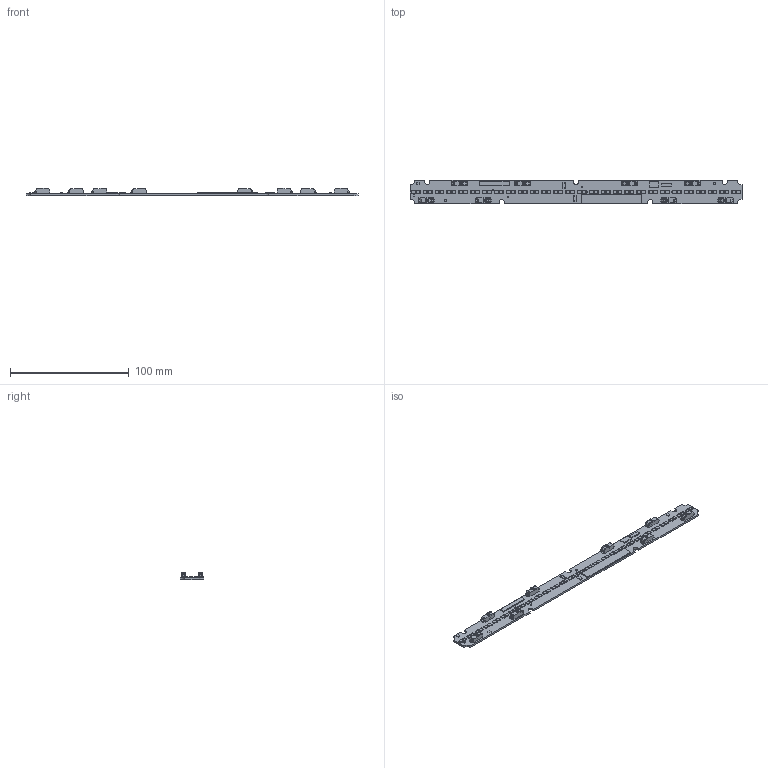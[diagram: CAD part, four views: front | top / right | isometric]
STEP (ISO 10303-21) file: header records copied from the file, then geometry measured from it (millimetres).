
FILE_DESCRIPTION((''),'2;1');
FILE_NAME('SC56DT110_06072021_10-35-22_ASM','2021-06-07T',('SYSTEM'),(''),'PRO/ENGINEER BY PARAMETRIC TECHNOLOGY CORPORATION, 2009360','PRO/ENGINEER BY PARAMETRIC TECHNOLOGY CORPORATION, 2009360','');
FILE_SCHEMA(('AUTOMOTIVE_DESIGN_CC2 { 1 2 10303 214 -1 1 5 2 }'));
Length unit declared in the file: inch
Products named in the file (11): SC56DT110_06072021_10-35-22; LM28XB; R2010; TC_R0_5MM; FIDUCIAL_R0_5MM; ROHS; UL; ARKALUMEN_LOGO_25MM; LABEL_BRACKET; WAGO-2060-1; SC56DT110_06072021_10-35-22_ASM
Assembly tree (80 placements, depth 2):
  SC56DT110_06072021_10-35-22_ASM
    SC56DT110_06072021_10-35-22
    LM28XB  x56
    R2010  x2
    TC_R0_5MM  x6
    FIDUCIAL_R0_5MM  x3
    ROHS
    UL
    ARKALUMEN_LOGO_25MM
    LABEL_BRACKET
    WAGO-2060-1  x8
Bounding box: 279.2 x 20 x 6.34 mm (x, y, z)
Volume: 10812.8 mm3; surface area: 17566.9 mm2
Topology: 80 solids, 82 shells, 4109 faces, 12073 edges, 8190 vertices
Faces by surface type: plane 2841, cylinder 1252, sphere 16
Entity records: 13135 total; most frequent: CARTESIAN_POINT 1999, DIRECTION 1815, ORIENTED_EDGE 1780, EDGE_CURVE 894, VECTOR 765, LINE 765, VERTEX_POINT 600, AXIS2_PLACEMENT_3D 525
